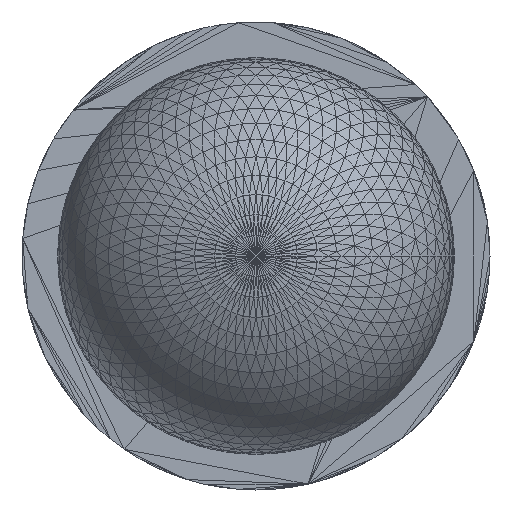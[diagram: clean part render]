
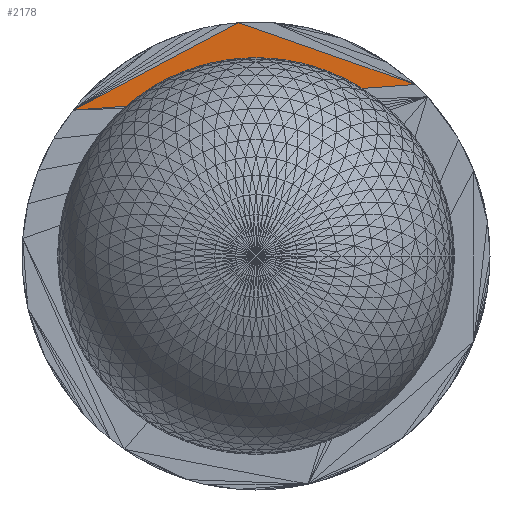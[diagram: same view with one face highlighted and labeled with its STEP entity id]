
A CAD part, front view. The second image highlights one B-rep face of the part: STEP entity #2178.
In plain terms, the highlighted planar face has unit normal (0, -1, 0) as drawn and (0, 0, 1) by its records, which use the part's own axes.
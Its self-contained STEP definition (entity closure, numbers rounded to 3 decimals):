
#878 = VERTEX_POINT('',#879);
#879 = CARTESIAN_POINT('',(-2.306,1.839,1.));
#1726 = VERTEX_POINT('',#1727);
#1727 = CARTESIAN_POINT('',(2.007,2.163,1.));
#1768 = PLANE('',#1769);
#1769 = AXIS2_PLACEMENT_3D('',#1770,#1771,#1772);
#1770 = CARTESIAN_POINT('',(0.901,2.588,1.));
#1771 = DIRECTION('',(0.,0.,1.));
#1772 = DIRECTION('',(1.,0.,-0.));
#1785 = VERTEX_POINT('',#1786);
#1786 = CARTESIAN_POINT('',(-0.22,2.942,1.));
#1812 = EDGE_CURVE('',#1726,#1785,#1813,.T.);
#1813 = SURFACE_CURVE('',#1814,(#1818,#1825),.PCURVE_S1.);
#1814 = LINE('',#1815,#1816);
#1815 = CARTESIAN_POINT('',(2.007,2.163,1.));
#1816 = VECTOR('',#1817,1.);
#1817 = DIRECTION('',(-0.944,0.33,0.));
#1818 = PCURVE('',#1768,#1819);
#1819 = DEFINITIONAL_REPRESENTATION('',(#1820),#1824);
#1820 = LINE('',#1821,#1822);
#1821 = CARTESIAN_POINT('',(1.106,-0.426));
#1822 = VECTOR('',#1823,1.);
#1823 = DIRECTION('',(-0.944,0.33));
#1824 = ( GEOMETRIC_REPRESENTATION_CONTEXT(2) 
PARAMETRIC_REPRESENTATION_CONTEXT() REPRESENTATION_CONTEXT('2D SPACE',''
  ) );
#1825 = PCURVE('',#1826,#1831);
#1826 = PLANE('',#1827);
#1827 = AXIS2_PLACEMENT_3D('',#1828,#1829,#1830);
#1828 = CARTESIAN_POINT('',(-0.168,2.246,1.));
#1829 = DIRECTION('',(0.,0.,1.));
#1830 = DIRECTION('',(1.,0.,-0.));
#1831 = DEFINITIONAL_REPRESENTATION('',(#1832),#1836);
#1832 = LINE('',#1833,#1834);
#1833 = CARTESIAN_POINT('',(2.175,-0.084));
#1834 = VECTOR('',#1835,1.);
#1835 = DIRECTION('',(-0.944,0.33));
#1836 = ( GEOMETRIC_REPRESENTATION_CONTEXT(2) 
PARAMETRIC_REPRESENTATION_CONTEXT() REPRESENTATION_CONTEXT('2D SPACE',''
  ) );
#1908 = PLANE('',#1909);
#1909 = AXIS2_PLACEMENT_3D('',#1910,#1911,#1912);
#1910 = CARTESIAN_POINT('',(-1.27,2.41,1.));
#1911 = DIRECTION('',(0.,0.,1.));
#1912 = DIRECTION('',(1.,0.,-0.));
#1958 = EDGE_CURVE('',#878,#1785,#1959,.T.);
#1959 = SURFACE_CURVE('',#1960,(#1964,#1971),.PCURVE_S1.);
#1960 = LINE('',#1961,#1962);
#1961 = CARTESIAN_POINT('',(-2.306,1.839,1.));
#1962 = VECTOR('',#1963,1.);
#1963 = DIRECTION('',(0.884,0.467,0.));
#1964 = PCURVE('',#1908,#1965);
#1965 = DEFINITIONAL_REPRESENTATION('',(#1966),#1970);
#1966 = LINE('',#1967,#1968);
#1967 = CARTESIAN_POINT('',(-1.037,-0.571));
#1968 = VECTOR('',#1969,1.);
#1969 = DIRECTION('',(0.884,0.467));
#1970 = ( GEOMETRIC_REPRESENTATION_CONTEXT(2) 
PARAMETRIC_REPRESENTATION_CONTEXT() REPRESENTATION_CONTEXT('2D SPACE',''
  ) );
#1971 = PCURVE('',#1826,#1972);
#1972 = DEFINITIONAL_REPRESENTATION('',(#1973),#1977);
#1973 = LINE('',#1974,#1975);
#1974 = CARTESIAN_POINT('',(-2.138,-0.407));
#1975 = VECTOR('',#1976,1.);
#1976 = DIRECTION('',(0.884,0.467));
#1977 = ( GEOMETRIC_REPRESENTATION_CONTEXT(2) 
PARAMETRIC_REPRESENTATION_CONTEXT() REPRESENTATION_CONTEXT('2D SPACE',''
  ) );
#2178 = ADVANCED_FACE('',(#2179),#1826,.T.);
#2179 = FACE_BOUND('',#2180,.T.);
#2180 = EDGE_LOOP('',(#2181,#2182,#2183));
#2181 = ORIENTED_EDGE('',*,*,#1812,.T.);
#2182 = ORIENTED_EDGE('',*,*,#1958,.F.);
#2183 = ORIENTED_EDGE('',*,*,#2184,.T.);
#2184 = EDGE_CURVE('',#878,#1726,#2185,.T.);
#2185 = SURFACE_CURVE('',#2186,(#2190,#2197),.PCURVE_S1.);
#2186 = LINE('',#2187,#2188);
#2187 = CARTESIAN_POINT('',(-2.306,1.839,1.));
#2188 = VECTOR('',#2189,1.);
#2189 = DIRECTION('',(0.997,0.075,0.));
#2190 = PCURVE('',#1826,#2191);
#2191 = DEFINITIONAL_REPRESENTATION('',(#2192),#2196);
#2192 = LINE('',#2193,#2194);
#2193 = CARTESIAN_POINT('',(-2.138,-0.407));
#2194 = VECTOR('',#2195,1.);
#2195 = DIRECTION('',(0.997,0.075));
#2196 = ( GEOMETRIC_REPRESENTATION_CONTEXT(2) 
PARAMETRIC_REPRESENTATION_CONTEXT() REPRESENTATION_CONTEXT('2D SPACE',''
  ) );
#2197 = PCURVE('',#2198,#2203);
#2198 = PLANE('',#2199);
#2199 = AXIS2_PLACEMENT_3D('',#2200,#2201,#2202);
#2200 = CARTESIAN_POINT('',(-0.057,1.964,1.));
#2201 = DIRECTION('',(0.,0.,1.));
#2202 = DIRECTION('',(1.,0.,-0.));
#2203 = DEFINITIONAL_REPRESENTATION('',(#2204),#2208);
#2204 = LINE('',#2205,#2206);
#2205 = CARTESIAN_POINT('',(-2.25,-0.125));
#2206 = VECTOR('',#2207,1.);
#2207 = DIRECTION('',(0.997,0.075));
#2208 = ( GEOMETRIC_REPRESENTATION_CONTEXT(2) 
PARAMETRIC_REPRESENTATION_CONTEXT() REPRESENTATION_CONTEXT('2D SPACE',''
  ) );
